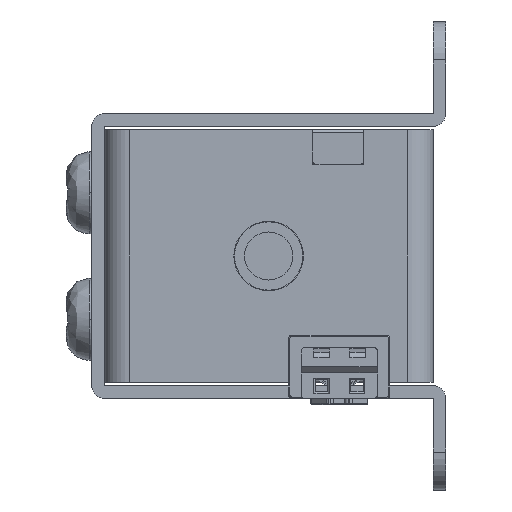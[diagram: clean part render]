
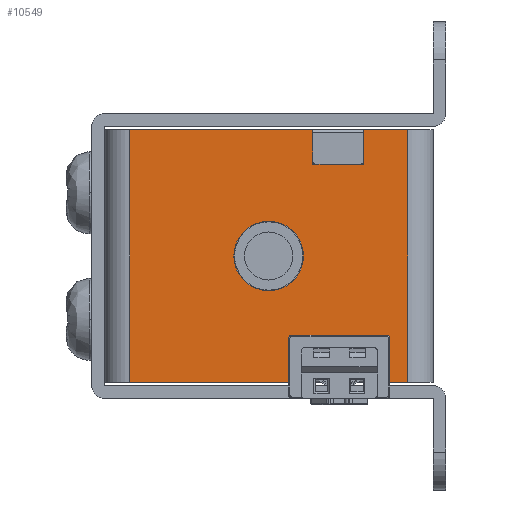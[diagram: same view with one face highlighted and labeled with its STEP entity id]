
A CAD part, left-side view. The second image highlights one B-rep face of the part: STEP entity #10549.
In plain terms, the highlighted planar face has unit normal (-1, 0, 0).
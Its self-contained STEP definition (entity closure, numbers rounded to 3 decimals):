
#22=DIRECTION('',(0.,-1.,0.));
#23=VECTOR('',#22,14.5);
#24=CARTESIAN_POINT('',(-27.,11.,-10.));
#25=LINE('',#24,#23);
#71=DIRECTION('',(0.,-1.,0.));
#72=VECTOR('',#71,3.5);
#73=CARTESIAN_POINT('',(-27.,-7.5,-10.));
#74=LINE('',#73,#72);
#3156=DIRECTION('',(0.,-1.,0.));
#3157=VECTOR('',#3156,14.5);
#3158=CARTESIAN_POINT('',(-27.,11.,10.));
#3159=LINE('',#3158,#3157);
#3165=DIRECTION('',(0.,-1.,0.));
#3166=VECTOR('',#3165,3.5);
#3167=CARTESIAN_POINT('',(-27.,-7.5,10.));
#3168=LINE('',#3167,#3166);
#3231=CARTESIAN_POINT('',(-27.,0.,0.));
#3232=DIRECTION('',(-1.,0.,0.));
#3233=DIRECTION('',(0.,0.,1.));
#3234=AXIS2_PLACEMENT_3D('',#3231,#3232,#3233);
#3236=CARTESIAN_POINT('',(-27.,0.,0.));
#3237=DIRECTION('',(-1.,0.,0.));
#3238=DIRECTION('',(0.,0.,-1.));
#3239=AXIS2_PLACEMENT_3D('',#3236,#3237,#3238);
#3241=DIRECTION('',(0.,0.,-1.));
#3242=VECTOR('',#3241,20.);
#3243=CARTESIAN_POINT('',(-27.,11.,10.));
#3244=LINE('',#3243,#3242);
#3245=DIRECTION('',(0.,0.,-1.));
#3246=VECTOR('',#3245,2.75);
#3247=CARTESIAN_POINT('',(-27.,-3.5,10.));
#3248=LINE('',#3247,#3246);
#3249=DIRECTION('',(0.,-1.,0.));
#3250=VECTOR('',#3249,4.);
#3251=CARTESIAN_POINT('',(-27.,-3.5,7.25));
#3252=LINE('',#3251,#3250);
#3253=DIRECTION('',(0.,0.,-1.));
#3254=VECTOR('',#3253,2.75);
#3255=CARTESIAN_POINT('',(-27.,-7.5,10.));
#3256=LINE('',#3255,#3254);
#3257=DIRECTION('',(0.,0.,-1.));
#3258=VECTOR('',#3257,20.);
#3259=CARTESIAN_POINT('',(-27.,-11.,10.));
#3260=LINE('',#3259,#3258);
#3261=DIRECTION('',(0.,0.,1.));
#3262=VECTOR('',#3261,2.75);
#3263=CARTESIAN_POINT('',(-27.,-7.5,-10.));
#3264=LINE('',#3263,#3262);
#3265=DIRECTION('',(0.,1.,0.));
#3266=VECTOR('',#3265,4.);
#3267=CARTESIAN_POINT('',(-27.,-7.5,-7.25));
#3268=LINE('',#3267,#3266);
#3269=DIRECTION('',(0.,0.,1.));
#3270=VECTOR('',#3269,2.75);
#3271=CARTESIAN_POINT('',(-27.,-3.5,-10.));
#3272=LINE('',#3271,#3270);
#3633=CARTESIAN_POINT('',(-27.,-7.5,-10.));
#3635=VERTEX_POINT('',#3633);
#3637=CARTESIAN_POINT('',(-27.,-3.5,-10.));
#3639=VERTEX_POINT('',#3637);
#3641=CARTESIAN_POINT('',(-27.,-3.5,10.));
#3643=VERTEX_POINT('',#3641);
#3645=CARTESIAN_POINT('',(-27.,-7.5,10.));
#3647=VERTEX_POINT('',#3645);
#3649=CARTESIAN_POINT('',(-27.,-7.5,-7.25));
#3650=VERTEX_POINT('',#3649);
#3651=CARTESIAN_POINT('',(-27.,-3.5,-7.25));
#3652=VERTEX_POINT('',#3651);
#3653=CARTESIAN_POINT('',(-27.,-3.5,7.25));
#3654=VERTEX_POINT('',#3653);
#3655=CARTESIAN_POINT('',(-27.,-7.5,7.25));
#3656=VERTEX_POINT('',#3655);
#3665=CARTESIAN_POINT('',(-27.,0.,2.75));
#3666=CARTESIAN_POINT('',(-27.,0.,-2.75));
#3667=VERTEX_POINT('',#3665);
#3668=VERTEX_POINT('',#3666);
#3769=CARTESIAN_POINT('',(-27.,11.,-10.));
#3771=VERTEX_POINT('',#3769);
#3775=CARTESIAN_POINT('',(-27.,11.,10.));
#3776=VERTEX_POINT('',#3775);
#3778=CARTESIAN_POINT('',(-27.,-11.,-10.));
#3780=VERTEX_POINT('',#3778);
#3781=CARTESIAN_POINT('',(-27.,-11.,10.));
#3782=VERTEX_POINT('',#3781);
#10519=CARTESIAN_POINT('',(-27.,13.,-10.));
#10520=DIRECTION('',(-1.,0.,0.));
#10521=DIRECTION('',(0.,-1.,0.));
#10522=AXIS2_PLACEMENT_3D('',#10519,#10520,#10521);
#10523=PLANE('',#10522);
#10524=ORIENTED_EDGE('',*,*,#4053,.F.);
#10525=ORIENTED_EDGE('',*,*,#10400,.T.);
#10527=ORIENTED_EDGE('',*,*,#10526,.T.);
#10529=ORIENTED_EDGE('',*,*,#10528,.T.);
#10531=ORIENTED_EDGE('',*,*,#10530,.F.);
#10532=ORIENTED_EDGE('',*,*,#10419,.T.);
#10534=ORIENTED_EDGE('',*,*,#10533,.T.);
#10535=ORIENTED_EDGE('',*,*,#4031,.F.);
#10536=ORIENTED_EDGE('',*,*,#10486,.T.);
#10537=ORIENTED_EDGE('',*,*,#10503,.T.);
#10539=ORIENTED_EDGE('',*,*,#10538,.F.);
#10540=ORIENTED_EDGE('',*,*,#3992,.F.);
#10541=EDGE_LOOP('',(#10524,#10525,#10527,#10529,#10531,#10532,#10534,#10535,
#10536,#10537,#10539,#10540));
#10542=FACE_OUTER_BOUND('',#10541,.F.);
#10544=ORIENTED_EDGE('',*,*,#10543,.T.);
#10546=ORIENTED_EDGE('',*,*,#10545,.T.);
#10547=EDGE_LOOP('',(#10544,#10546));
#10548=FACE_BOUND('',#10547,.F.);
#10549=ADVANCED_FACE('',(#10542,#10548),#10523,.T.);
#3235=CIRCLE('',#3234,2.75);
#3240=CIRCLE('',#3239,2.75);
#3992=EDGE_CURVE('',#3771,#3639,#25,.T.);
#4031=EDGE_CURVE('',#3635,#3780,#74,.T.);
#4053=EDGE_CURVE('',#3776,#3771,#3244,.T.);
#10400=EDGE_CURVE('',#3776,#3643,#3159,.T.);
#10419=EDGE_CURVE('',#3647,#3782,#3168,.T.);
#10486=EDGE_CURVE('',#3635,#3650,#3264,.T.);
#10503=EDGE_CURVE('',#3650,#3652,#3268,.T.);
#10526=EDGE_CURVE('',#3643,#3654,#3248,.T.);
#10528=EDGE_CURVE('',#3654,#3656,#3252,.T.);
#10530=EDGE_CURVE('',#3647,#3656,#3256,.T.);
#10533=EDGE_CURVE('',#3782,#3780,#3260,.T.);
#10538=EDGE_CURVE('',#3639,#3652,#3272,.T.);
#10543=EDGE_CURVE('',#3667,#3668,#3235,.T.);
#10545=EDGE_CURVE('',#3668,#3667,#3240,.T.);
